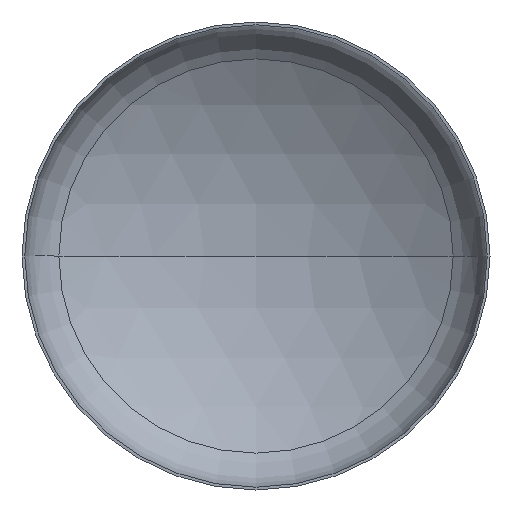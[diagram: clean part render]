
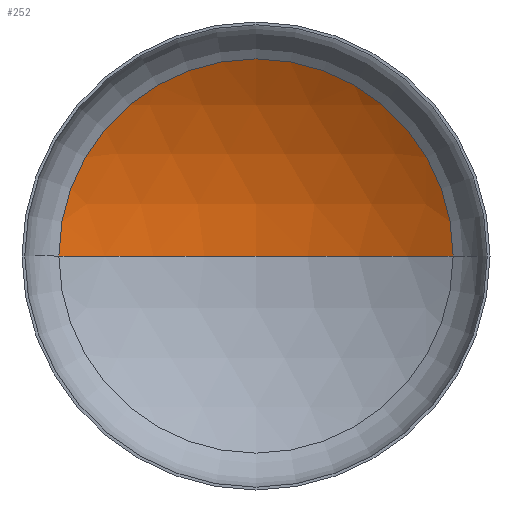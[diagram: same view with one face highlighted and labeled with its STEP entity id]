
A CAD part, front view. The second image highlights one B-rep face of the part: STEP entity #252.
In plain terms, the highlighted spherical face has radius 5200 mm.
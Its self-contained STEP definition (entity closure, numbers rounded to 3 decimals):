
#12 = DIRECTION ( 'NONE',  ( 0., 0., -1. ) ) ;
#20 = CARTESIAN_POINT ( 'NONE',  ( 0., -3450.921, 0. ) ) ;
#31 = AXIS2_PLACEMENT_3D ( 'NONE', #20, #12, #387 ) ;
#35 = SPHERICAL_SURFACE ( 'NONE', #31, 5200. ) ;
#43 = ORIENTED_EDGE ( 'NONE', *, *, #99, .T. ) ;
#44 = AXIS2_PLACEMENT_3D ( 'NONE', #360, #212, #207 ) ;
#45 = AXIS2_PLACEMENT_3D ( 'NONE', #184, #186, #152 ) ;
#47 = AXIS2_PLACEMENT_3D ( 'NONE', #284, #203, #199 ) ;
#93 = CIRCLE ( 'NONE', #47, 2737.429 ) ;
#99 = EDGE_CURVE ( 'NONE', #173, #142, #93, .T. ) ;
#102 = EDGE_CURVE ( 'NONE', #300, #173, #205, .T. ) ;
#103 = EDGE_CURVE ( 'NONE', #300, #142, #331, .T. ) ;
#107 = ORIENTED_EDGE ( 'NONE', *, *, #102, .T. ) ;
#109 = CARTESIAN_POINT ( 'NONE',  ( 0., 1749.079, 0. ) ) ;
#142 = VERTEX_POINT ( 'NONE', #194 ) ;
#152 = DIRECTION ( 'NONE',  ( -1., 0., 0. ) ) ;
#173 = VERTEX_POINT ( 'NONE', #268 ) ;
#184 = CARTESIAN_POINT ( 'NONE',  ( 0., -3450.921, 0. ) ) ;
#186 = DIRECTION ( 'NONE',  ( 0., 0., -1. ) ) ;
#194 = CARTESIAN_POINT ( 'NONE',  ( -2737.429, 970.219, 0. ) ) ;
#196 = EDGE_LOOP ( 'NONE', ( #407, #107, #43 ) ) ;
#199 = DIRECTION ( 'NONE',  ( 1., 0., 0. ) ) ;
#203 = DIRECTION ( 'NONE',  ( 0., -1., 0. ) ) ;
#205 = CIRCLE ( 'NONE', #45, 5200. ) ;
#207 = DIRECTION ( 'NONE',  ( 1., 0., 0. ) ) ;
#212 = DIRECTION ( 'NONE',  ( 0., 0., 1. ) ) ;
#252 = ADVANCED_FACE ( 'NONE', ( #261 ), #35, .F. ) ;
#261 = FACE_OUTER_BOUND ( 'NONE', #196, .T. ) ;
#268 = CARTESIAN_POINT ( 'NONE',  ( 2737.429, 970.219, 0. ) ) ;
#284 = CARTESIAN_POINT ( 'NONE',  ( 0., 970.219, 0. ) ) ;
#300 = VERTEX_POINT ( 'NONE', #109 ) ;
#331 = CIRCLE ( 'NONE', #44, 5200. ) ;
#360 = CARTESIAN_POINT ( 'NONE',  ( 0., -3450.921, 0. ) ) ;
#387 = DIRECTION ( 'NONE',  ( -1., 0., 0. ) ) ;
#407 = ORIENTED_EDGE ( 'NONE', *, *, #103, .F. ) ;
